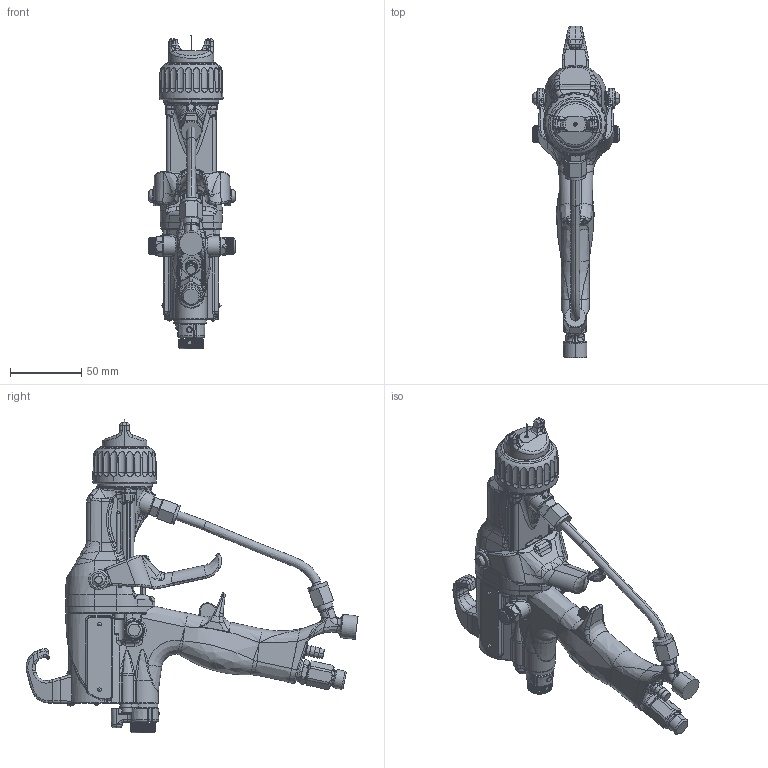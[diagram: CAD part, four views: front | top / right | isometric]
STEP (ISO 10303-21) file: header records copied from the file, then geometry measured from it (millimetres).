
FILE_DESCRIPTION((''),'2;1');
FILE_NAME('L40T14-EN-T_PRT','2020-05-18T18:13:36',('qusrh3'),(''),'CREO PARAMETRIC BY PTC INC, 2019030','CREO PARAMETRIC BY PTC INC, 2019030','');
FILE_SCHEMA(('CONFIG_CONTROL_DESIGN'));
Products named in the file (1): L40T14-EN-T_PRT
Bounding box: 60.96 x 233.22 x 220.37 mm (x, y, z)
Surface area: 84072.3 mm2 (no closed solid volume)
Topology: 0 solids, 64 shells, 2625 faces, 7252 edges, 4545 vertices
Faces by surface type: bspline 840, cylinder 673, plane 577, torus 237, cone 228, sphere 64, extrusion 6
Entity records: 128292 total; most frequent: CARTESIAN_POINT 70398, ORIENTED_EDGE 13147, DIRECTION 9974, EDGE_CURVE 7241, VERTEX_POINT 4545, AXIS2_PLACEMENT_3D 4012, B_SPLINE_CURVE_WITH_KNOTS 3070, EDGE_LOOP 2625
